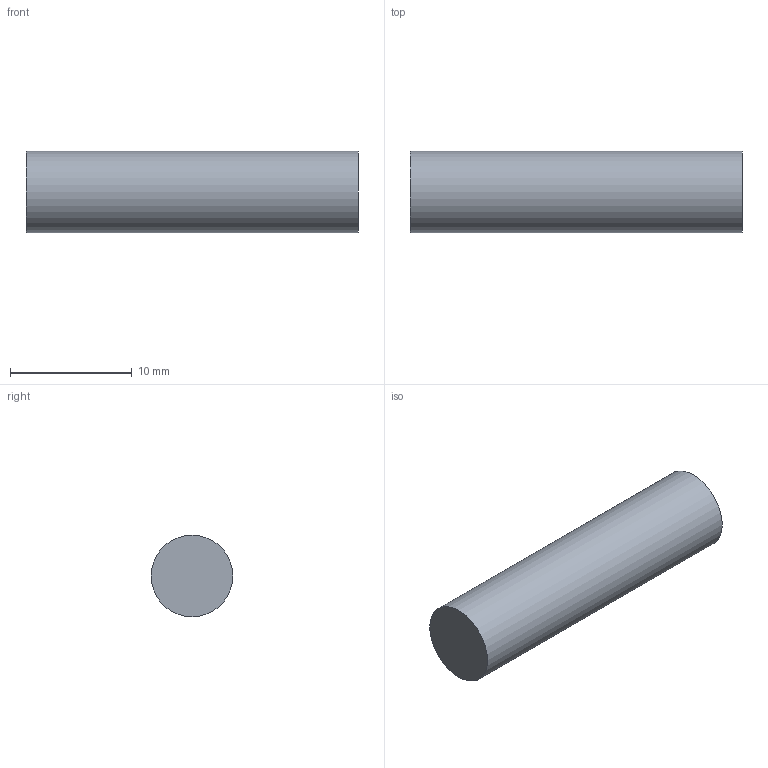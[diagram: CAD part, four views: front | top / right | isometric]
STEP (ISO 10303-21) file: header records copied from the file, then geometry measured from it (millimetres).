
FILE_DESCRIPTION(('Open CASCADE Model'),'2;1');
FILE_NAME('Open CASCADE Shape Model','2026-11-24T19:57:38',('Author'),( 'Open CASCADE'),'Open CASCADE STEP processor 7.8','Open CASCADE 7.8' ,'Unknown');
FILE_SCHEMA(('AUTOMOTIVE_DESIGN { 1 0 10303 214 1 1 1 1 }'));
Length unit declared in the file: millimetre
Products named in the file (1): Open CASCADE STEP translator 7.8 22
Bounding box: 27.28 x 6.71 x 6.71 mm (x, y, z)
Volume: 750.7 mm3; surface area: 817 mm2
Topology: 1 solids, 1 shells, 5 faces, 6 edges, 4 vertices
Faces by surface type: plane 3, cylinder 2
Full cylindrical faces by diameter (mm): 5 x1, 6.71 x1
Entity records: 190 total; most frequent: DIRECTION 32, CARTESIAN_POINT 30, ORIENTED_EDGE 12, PCURVE 12, DEFINITIONAL_REPRESENTATION 12, AXIS2_PLACEMENT_3D 10, CIRCLE 8, LINE 8
